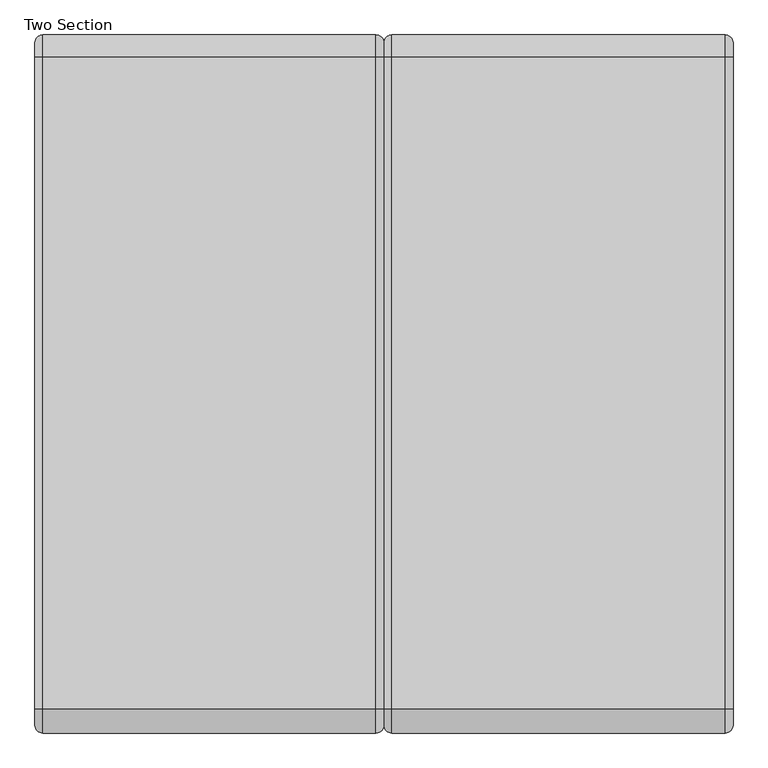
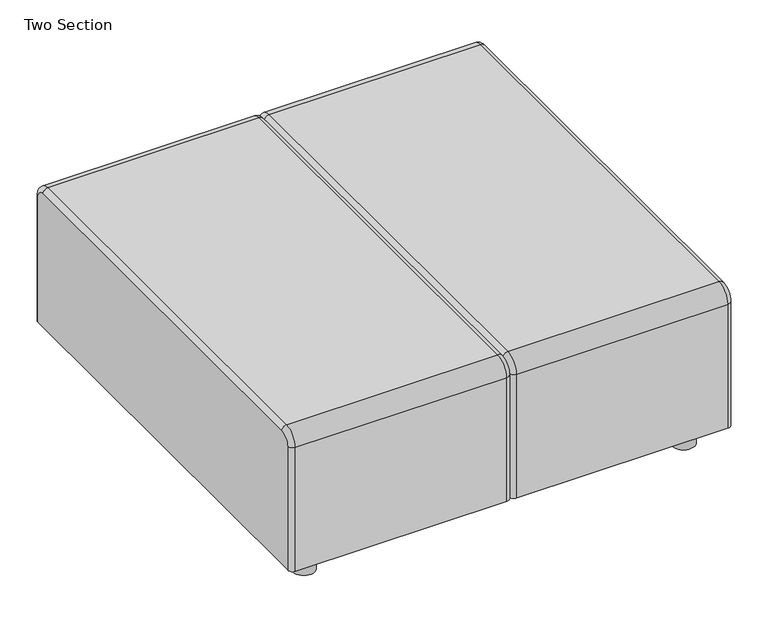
"""IFC4 building model written with IfcOpenShell, lengths in millimetres: furniture geometry, Coalesse_AM_Seating_Sofa_Await_ConnectorBench : Two Section."""

from ifc_helpers import new_model, si_unit, point, frame, frame_2d, origin, origin_with_axes, place, context, project, spatial, circle_curve, ellipse_curve, trimmed, segment, composite_curve, outline, extrude, source, transform, mapped, element, save
from ifc_brep_helpers import plane_surface, cylinder_surface, revolved_surface, advanced_brep


def two_section_09929254(model_context):
    return source(origin(), model_context, "Body", "SolidModel", [
        advanced_brep(
        [(-105.1179159, 393.3623127, 63.5), (-92.5345867, 405.9456418, 63.5), (440.8886284, 405.9456418, 63.5), (453.6820901, 393.1521801, 63.5), (453.6820901, -698.8608965, 63.5), (440.8886284, -711.6543582, 63.5), (-92.5345867, -711.6543582, 63.5), (-105.1179159, -699.071029, 63.5), (-105.1179159, -699.071029, 393.6999879), (-105.1179159, -673.5543582, 419.2166587), (-105.1179159, 370.1950719, 419.2166587), (-105.1179159, 393.3623127, 396.049418), (453.6820901, 393.1521801, 396.049418), (453.6820901, 370.1950719, 419.0065262), (453.6820901, -673.5543582, 419.0065262), (453.6820901, -698.8608965, 393.6999879), (440.8886284, -711.6543582, 393.6999879), (-92.5345867, -711.6543582, 393.6999879), (440.8886284, -673.5543582, 431.7999879), (-92.5345867, -673.5543582, 431.7999879), (440.8886284, 370.1950719, 431.7999879), (-92.5345867, 370.1950719, 431.7999879), (440.8886284, 405.9456418, 396.049418), (-92.5345867, 405.9456418, 396.049418)],
        [
            (0, 1, circle_curve(frame((-92.5345867, 393.3623127, 63.5), z_axis=(0.0, 0.0, -1.0), x_axis=(0.0, 1.0, 0.0)), 12.5833292)),
            (1, 2),
            (2, 3, circle_curve(frame((440.8886284, 393.1521801, 63.5), z_axis=(0.0, 0.0, -1.0), x_axis=(0.0, 1.0, 0.0)), 12.7934617)),
            (3, 4),
            (4, 5, circle_curve(frame((440.8886284, -698.8608965, 63.5), z_axis=(0.0, 0.0, -1.0), x_axis=(0.0, -1.0, 0.0)), 12.7934617)),
            (5, 6),
            (6, 7, circle_curve(frame((-92.5345867, -699.071029, 63.5), z_axis=(0.0, 0.0, -1.0), x_axis=(0.0, -1.0, 0.0)), 12.5833292)),
            (7, 0),
            (7, 8),
            (8, 9, circle_curve(frame((-105.1179159, -673.5543582, 393.6999879), z_axis=(-1.0, 0.0, 0.0), x_axis=(0.0, -1.0, 0.0)), 25.5166708)),
            (9, 10),
            (10, 11, circle_curve(frame((-105.1179159, 370.1950719, 396.049418), z_axis=(-1.0, 0.0, 0.0), x_axis=(0.0, 0.0, 1.0)), 23.1672407)),
            (11, 0),
            (3, 12),
            (12, 13, circle_curve(frame((453.6820901, 370.1950719, 396.049418), z_axis=(1.0, 0.0, 0.0), x_axis=(0.0, 0.0, 1.0)), 22.9571082)),
            (13, 14),
            (14, 15, circle_curve(frame((453.6820901, -673.5543582, 393.6999879), z_axis=(1.0, 0.0, 0.0), x_axis=(0.0, -1.0, 0.0)), 25.3065383)),
            (15, 4),
            (15, 16, circle_curve(frame((440.8886284, -698.8608965, 393.6999879), z_axis=(0.0, 0.0, -1.0), x_axis=(0.0, -1.0, 0.0)), 12.7934617)),
            (16, 5),
            (16, 17),
            (17, 6),
            (17, 8, circle_curve(frame((-92.5345867, -699.071029, 393.6999879), z_axis=(0.0, 0.0, -1.0), x_axis=(0.0, -1.0, 0.0)), 12.5833292)),
            (14, 18, circle_curve(frame((440.8886284, -673.5543582, 419.0065262), z_axis=(0.0, -1.0, 0.0), x_axis=(0.0, 0.0, 1.0)), 12.7934617)),
            (18, 16, circle_curve(frame((440.8886284, -673.5543582, 393.6999879), z_axis=(1.0, 0.0, 0.0), x_axis=(0.0, -1.0, 0.0)), 38.1)),
            (18, 19),
            (19, 17, circle_curve(frame((-92.5345867, -673.5543582, 393.6999879), z_axis=(1.0, 0.0, 0.0), x_axis=(0.0, -1.0, 0.0)), 38.1)),
            (19, 9, circle_curve(frame((-92.5345867, -673.5543582, 419.2166587), z_axis=(0.0, -1.0, 0.0), x_axis=(0.0, 0.0, 1.0)), 12.5833292)),
            (13, 20, circle_curve(frame((440.8886284, 370.1950719, 419.0065262), z_axis=(0.0, -1.0, 0.0), x_axis=(0.0, 0.0, 1.0)), 12.7934617)),
            (20, 18),
            (20, 21),
            (21, 19),
            (21, 10, circle_curve(frame((-92.5345867, 370.1950719, 419.2166587), z_axis=(0.0, -1.0, 0.0), x_axis=(0.0, 0.0, 1.0)), 12.5833292)),
            (12, 22, circle_curve(frame((440.8886284, 393.1521801, 396.049418), z_axis=(0.0, 0.0, 1.0), x_axis=(0.0, 1.0, 0.0)), 12.7934617)),
            (22, 20, circle_curve(frame((440.8886284, 370.1950719, 396.049418), z_axis=(1.0, 0.0, 0.0), x_axis=(0.0, 0.0, 1.0)), 35.7505699)),
            (22, 23),
            (23, 21, circle_curve(frame((-92.5345867, 370.1950719, 396.049418), z_axis=(1.0, 0.0, 0.0), x_axis=(0.0, 0.0, 1.0)), 35.7505699)),
            (23, 11, circle_curve(frame((-92.5345867, 393.3623127, 396.049418), z_axis=(0.0, 0.0, 1.0), x_axis=(0.0, 1.0, 0.0)), 12.5833292)),
            (2, 22),
            (1, 23),
        ],
        [
            plane_surface(frame((558.8000061, -686.2543582, 63.5), z_axis=(0.0, 0.0, -1.0), x_axis=(1.0, 0.0, 0.0))),
            plane_surface(frame((-105.1179159, -699.071029, 63.5), z_axis=(-1.0, 0.0, 0.0), x_axis=(0.0, 0.0, 1.0))),
            plane_surface(frame((453.6820901, -686.2543582, 63.5), z_axis=(1.0, 0.0, 0.0), x_axis=(0.0, 0.0, 1.0))),
            cylinder_surface(frame((440.8886284, -698.8608965, 63.5), z_axis=(0.0, 0.0, -1.0), x_axis=(0.0, -1.0, 0.0)), 12.7934617),
            plane_surface(frame((440.8886284, -711.6543582, 63.5), z_axis=(0.0, -1.0, 0.0), x_axis=(0.0, 0.0, 1.0))),
            cylinder_surface(frame((-92.5345867, -699.071029, 63.5), z_axis=(0.0, 0.0, -1.0), x_axis=(0.0, -1.0, 0.0)), 12.5833292),
            revolved_surface(trimmed(ellipse_curve(frame((440.8886284, -698.8608965, 393.6999879), z_axis=(0.0, 0.0, -1.0), x_axis=(0.0, -1.0, 0.0)), 12.7934617, 12.7934617), [point((453.6820901, -698.8608965, 393.6999879))], [point((440.8886284, -711.6543582, 393.6999879))], True, "CARTESIAN"), (558.8000061, -673.5543582, 393.6999879), (-1.0, 0.0, 0.0)),
            cylinder_surface(frame((558.8000061, -673.5543582, 393.6999879), z_axis=(-1.0, 0.0, 0.0), x_axis=(0.0, -1.0, 0.0)), 38.1),
            revolved_surface(trimmed(ellipse_curve(frame((-92.5345867, -699.071029, 393.6999879), z_axis=(0.0, 0.0, -1.0), x_axis=(0.0, -1.0, 0.0)), 12.5833292, 12.5833292), [point((-92.5345867, -711.6543582, 393.6999879))], [point((-105.1179159, -699.071029, 393.6999879))], True, "CARTESIAN"), (558.8000061, -673.5543582, 393.6999879), (-1.0, 0.0, 0.0)),
            cylinder_surface(frame((440.8886284, -673.5543582, 419.0065262), z_axis=(0.0, -1.0, 0.0), x_axis=(0.0, 0.0, 1.0)), 12.7934617),
            plane_surface(frame((440.8886284, -673.5543582, 431.7999879), z_axis=(0.0, 0.0, 1.0), x_axis=(0.0, 1.0, 0.0))),
            cylinder_surface(frame((-92.5345867, -673.5543582, 419.2166587), z_axis=(0.0, -1.0, 0.0), x_axis=(0.0, 0.0, 1.0)), 12.5833292),
            revolved_surface(trimmed(ellipse_curve(frame((440.8886284, 370.1950719, 419.0065262), z_axis=(0.0, -1.0, 0.0), x_axis=(0.0, 0.0, 1.0)), 12.7934617, 12.7934617), [point((453.6820901, 370.1950719, 419.0065262))], [point((440.8886284, 370.1950719, 431.7999879))], True, "CARTESIAN"), (558.8000061, 370.1950719, 396.049418), (-1.0, 0.0, 0.0)),
            cylinder_surface(frame((558.8000061, 370.1950719, 396.049418), z_axis=(-1.0, 0.0, 0.0), x_axis=(0.0, 0.0, 1.0)), 35.7505699),
            revolved_surface(trimmed(ellipse_curve(frame((-92.5345867, 370.1950719, 419.2166587), z_axis=(0.0, -1.0, 0.0), x_axis=(0.0, 0.0, 1.0)), 12.5833292, 12.5833292), [point((-92.5345867, 370.1950719, 431.7999879))], [point((-105.1179159, 370.1950719, 419.2166587))], True, "CARTESIAN"), (558.8000061, 370.1950719, 396.049418), (-1.0, 0.0, 0.0)),
            cylinder_surface(frame((440.8886284, 393.1521801, 396.049418), z_axis=(0.0, 0.0, 1.0), x_axis=(0.0, 1.0, 0.0)), 12.7934617),
            plane_surface(frame((440.8886284, 405.9456418, 396.049418), z_axis=(0.0, 1.0, 0.0), x_axis=(0.0, 0.0, -1.0))),
            cylinder_surface(frame((-92.5345867, 393.3623127, 396.049418), z_axis=(0.0, 0.0, 1.0), x_axis=(0.0, 1.0, 0.0)), 12.5833292),
        ],
        [
            (0, [[1, 2, 3, 4, 5, 6, 7, 8]]),
            (1, [[-8, 9, 10, 11, 12, 13]]),
            (2, [[-4, 14, 15, 16, 17, 18]]),
            (3, [[-5, -18, 19, 20]]),
            (4, [[-6, -20, 21, 22]]),
            (5, [[-7, -22, 23, -9]]),
            (6, [[-17, 24, 25, -19]]),
            (7, [[-21, -25, 26, 27]]),
            (8, [[-10, -23, -27, 28]]),
            (9, [[-16, 29, 30, -24]]),
            (10, [[-26, -30, 31, 32]]),
            (11, [[-11, -28, -32, 33]]),
            (12, [[-15, 34, 35, -29]]),
            (13, [[-31, -35, 36, 37]]),
            (14, [[-12, -33, -37, 38]]),
            (15, [[-14, -3, 39, -34]]),
            (16, [[-36, -39, -2, 40]]),
            (17, [[-13, -38, -40, -1]]),
        ],
    ),
        advanced_brep(
        [(-663.917922, 393.3623127, 63.5), (-651.3345928, 405.9456418, 63.5), (-117.9113776, 405.9456418, 63.5), (-105.1179159, 393.1521801, 63.5), (-105.1179159, -698.8608965, 63.5), (-117.9113776, -711.6543582, 63.5), (-651.3345928, -711.6543582, 63.5), (-663.917922, -699.071029, 63.5), (-663.917922, -699.071029, 393.6999879), (-663.917922, -673.5543582, 419.2166587), (-663.917922, 370.1950719, 419.2166587), (-663.917922, 393.3623127, 396.049418), (-105.1179159, 393.1521801, 396.049418), (-105.1179159, 370.1950719, 419.0065262), (-105.1179159, -673.5543582, 419.0065262), (-105.1179159, -698.8608965, 393.6999879), (-117.9113776, -711.6543582, 393.6999879), (-651.3345928, -711.6543582, 393.6999879), (-117.9113776, -673.5543582, 431.7999879), (-651.3345928, -673.5543582, 431.7999879), (-117.9113776, 370.1950719, 431.7999879), (-651.3345928, 370.1950719, 431.7999879), (-117.9113776, 405.9456418, 396.049418), (-651.3345928, 405.9456418, 396.049418)],
        [
            (0, 1, circle_curve(frame((-651.3345928, 393.3623127, 63.5), z_axis=(0.0, 0.0, -1.0), x_axis=(0.0, 1.0, 0.0)), 12.5833292)),
            (1, 2),
            (2, 3, circle_curve(frame((-117.9113776, 393.1521801, 63.5), z_axis=(0.0, 0.0, -1.0), x_axis=(0.0, 1.0, 0.0)), 12.7934617)),
            (3, 4),
            (4, 5, circle_curve(frame((-117.9113776, -698.8608965, 63.5), z_axis=(0.0, 0.0, -1.0), x_axis=(0.0, -1.0, 0.0)), 12.7934617)),
            (5, 6),
            (6, 7, circle_curve(frame((-651.3345928, -699.071029, 63.5), z_axis=(0.0, 0.0, -1.0), x_axis=(0.0, -1.0, 0.0)), 12.5833292)),
            (7, 0),
            (7, 8),
            (8, 9, circle_curve(frame((-663.917922, -673.5543582, 393.6999879), z_axis=(-1.0, 0.0, 0.0), x_axis=(0.0, -1.0, 0.0)), 25.5166708)),
            (9, 10),
            (10, 11, circle_curve(frame((-663.917922, 370.1950719, 396.049418), z_axis=(-1.0, 0.0, 0.0), x_axis=(0.0, 0.0, 1.0)), 23.1672407)),
            (11, 0),
            (3, 12),
            (12, 13, circle_curve(frame((-105.1179159, 370.1950719, 396.049418), z_axis=(1.0, 0.0, 0.0), x_axis=(0.0, 0.0, 1.0)), 22.9571082)),
            (13, 14),
            (14, 15, circle_curve(frame((-105.1179159, -673.5543582, 393.6999879), z_axis=(1.0, 0.0, 0.0), x_axis=(0.0, -1.0, 0.0)), 25.3065383)),
            (15, 4),
            (15, 16, circle_curve(frame((-117.9113776, -698.8608965, 393.6999879), z_axis=(0.0, 0.0, -1.0), x_axis=(0.0, -1.0, 0.0)), 12.7934617)),
            (16, 5),
            (16, 17),
            (17, 6),
            (17, 8, circle_curve(frame((-651.3345928, -699.071029, 393.6999879), z_axis=(0.0, 0.0, -1.0), x_axis=(0.0, -1.0, 0.0)), 12.5833292)),
            (14, 18, circle_curve(frame((-117.9113776, -673.5543582, 419.0065262), z_axis=(0.0, -1.0, 0.0), x_axis=(0.0, 0.0, 1.0)), 12.7934617)),
            (18, 16, circle_curve(frame((-117.9113776, -673.5543582, 393.6999879), z_axis=(1.0, 0.0, 0.0), x_axis=(0.0, -1.0, 0.0)), 38.1)),
            (18, 19),
            (19, 17, circle_curve(frame((-651.3345928, -673.5543582, 393.6999879), z_axis=(1.0, 0.0, 0.0), x_axis=(0.0, -1.0, 0.0)), 38.1)),
            (19, 9, circle_curve(frame((-651.3345928, -673.5543582, 419.2166587), z_axis=(0.0, -1.0, 0.0), x_axis=(0.0, 0.0, 1.0)), 12.5833292)),
            (13, 20, circle_curve(frame((-117.9113776, 370.1950719, 419.0065262), z_axis=(0.0, -1.0, 0.0), x_axis=(0.0, 0.0, 1.0)), 12.7934617)),
            (20, 18),
            (20, 21),
            (21, 19),
            (21, 10, circle_curve(frame((-651.3345928, 370.1950719, 419.2166587), z_axis=(0.0, -1.0, 0.0), x_axis=(0.0, 0.0, 1.0)), 12.5833292)),
            (12, 22, circle_curve(frame((-117.9113776, 393.1521801, 396.049418), z_axis=(0.0, 0.0, 1.0), x_axis=(0.0, 1.0, 0.0)), 12.7934617)),
            (22, 20, circle_curve(frame((-117.9113776, 370.1950719, 396.049418), z_axis=(1.0, 0.0, 0.0), x_axis=(0.0, 0.0, 1.0)), 35.7505699)),
            (22, 23),
            (23, 21, circle_curve(frame((-651.3345928, 370.1950719, 396.049418), z_axis=(1.0, 0.0, 0.0), x_axis=(0.0, 0.0, 1.0)), 35.7505699)),
            (23, 11, circle_curve(frame((-651.3345928, 393.3623127, 396.049418), z_axis=(0.0, 0.0, 1.0), x_axis=(0.0, 1.0, 0.0)), 12.5833292)),
            (2, 22),
            (1, 23),
        ],
        [
            plane_surface(frame((0.0, -686.2543582, 63.5), z_axis=(0.0, 0.0, -1.0), x_axis=(1.0, 0.0, 0.0))),
            plane_surface(frame((-663.917922, -699.071029, 63.5), z_axis=(-1.0, 0.0, 0.0), x_axis=(0.0, 0.0, 1.0))),
            plane_surface(frame((-105.1179159, -686.2543582, 63.5), z_axis=(1.0, 0.0, 0.0), x_axis=(0.0, 0.0, 1.0))),
            cylinder_surface(frame((-117.9113776, -698.8608965, 63.5), z_axis=(0.0, 0.0, -1.0), x_axis=(0.0, -1.0, 0.0)), 12.7934617),
            plane_surface(frame((-117.9113776, -711.6543582, 63.5), z_axis=(0.0, -1.0, 0.0), x_axis=(0.0, 0.0, 1.0))),
            cylinder_surface(frame((-651.3345928, -699.071029, 63.5), z_axis=(0.0, 0.0, -1.0), x_axis=(0.0, -1.0, 0.0)), 12.5833292),
            revolved_surface(trimmed(ellipse_curve(frame((-117.9113776, -698.8608965, 393.6999879), z_axis=(0.0, 0.0, -1.0), x_axis=(0.0, -1.0, 0.0)), 12.7934617, 12.7934617), [point((-105.1179159, -698.8608965, 393.6999879))], [point((-117.9113776, -711.6543582, 393.6999879))], True, "CARTESIAN"), (0.0, -673.5543582, 393.6999879), (-1.0, 0.0, 0.0)),
            cylinder_surface(frame((0.0, -673.5543582, 393.6999879), z_axis=(-1.0, 0.0, 0.0), x_axis=(0.0, -1.0, 0.0)), 38.1),
            revolved_surface(trimmed(ellipse_curve(frame((-651.3345928, -699.071029, 393.6999879), z_axis=(0.0, 0.0, -1.0), x_axis=(0.0, -1.0, 0.0)), 12.5833292, 12.5833292), [point((-651.3345928, -711.6543582, 393.6999879))], [point((-663.917922, -699.071029, 393.6999879))], True, "CARTESIAN"), (0.0, -673.5543582, 393.6999879), (-1.0, 0.0, 0.0)),
            cylinder_surface(frame((-117.9113776, -673.5543582, 419.0065262), z_axis=(0.0, -1.0, 0.0), x_axis=(0.0, 0.0, 1.0)), 12.7934617),
            plane_surface(frame((-117.9113776, -673.5543582, 431.7999879), z_axis=(0.0, 0.0, 1.0), x_axis=(0.0, 1.0, 0.0))),
            cylinder_surface(frame((-651.3345928, -673.5543582, 419.2166587), z_axis=(0.0, -1.0, 0.0), x_axis=(0.0, 0.0, 1.0)), 12.5833292),
            revolved_surface(trimmed(ellipse_curve(frame((-117.9113776, 370.1950719, 419.0065262), z_axis=(0.0, -1.0, 0.0), x_axis=(0.0, 0.0, 1.0)), 12.7934617, 12.7934617), [point((-105.1179159, 370.1950719, 419.0065262))], [point((-117.9113776, 370.1950719, 431.7999879))], True, "CARTESIAN"), (0.0, 370.1950719, 396.049418), (-1.0, 0.0, 0.0)),
            cylinder_surface(frame((0.0, 370.1950719, 396.049418), z_axis=(-1.0, 0.0, 0.0), x_axis=(0.0, 0.0, 1.0)), 35.7505699),
            revolved_surface(trimmed(ellipse_curve(frame((-651.3345928, 370.1950719, 419.2166587), z_axis=(0.0, -1.0, 0.0), x_axis=(0.0, 0.0, 1.0)), 12.5833292, 12.5833292), [point((-651.3345928, 370.1950719, 431.7999879))], [point((-663.917922, 370.1950719, 419.2166587))], True, "CARTESIAN"), (0.0, 370.1950719, 396.049418), (-1.0, 0.0, 0.0)),
            cylinder_surface(frame((-117.9113776, 393.1521801, 396.049418), z_axis=(0.0, 0.0, 1.0), x_axis=(0.0, 1.0, 0.0)), 12.7934617),
            plane_surface(frame((-117.9113776, 405.9456418, 396.049418), z_axis=(0.0, 1.0, 0.0), x_axis=(0.0, 0.0, -1.0))),
            cylinder_surface(frame((-651.3345928, 393.3623127, 396.049418), z_axis=(0.0, 0.0, 1.0), x_axis=(0.0, 1.0, 0.0)), 12.5833292),
        ],
        [
            (0, [[1, 2, 3, 4, 5, 6, 7, 8]]),
            (1, [[-8, 9, 10, 11, 12, 13]]),
            (2, [[-4, 14, 15, 16, 17, 18]]),
            (3, [[-5, -18, 19, 20]]),
            (4, [[-6, -20, 21, 22]]),
            (5, [[-7, -22, 23, -9]]),
            (6, [[-17, 24, 25, -19]]),
            (7, [[-21, -25, 26, 27]]),
            (8, [[-10, -23, -27, 28]]),
            (9, [[-16, 29, 30, -24]]),
            (10, [[-26, -30, 31, 32]]),
            (11, [[-11, -28, -32, 33]]),
            (12, [[-15, 34, 35, -29]]),
            (13, [[-31, -35, 36, 37]]),
            (14, [[-12, -33, -37, 38]]),
            (15, [[-14, -3, 39, -34]]),
            (16, [[-36, -39, -2, 40]]),
            (17, [[-13, -38, -40, -1]]),
        ],
    ),
        extrude(outline(composite_curve([segment(trimmed(circle_curve(frame_2d((-584.4783622, -631.9867521)), 27.94), [point((-612.4183622, -631.9867521))], [point((-556.5383622, -631.9867521))], False, "CARTESIAN"), True, "CONTINUOUS"), segment(trimmed(circle_curve(frame_2d((-584.4783622, -631.9867521)), 27.94), [point((-556.5383622, -631.9867521))], [point((-612.4183622, -631.9867521))], False, "CARTESIAN"), True, "CONTINUOUS")], self_intersect=False)), origin_with_axes(), (0.0, 0.0, 1.0), 63.5),
        extrude(outline(composite_curve([segment(trimmed(circle_curve(frame_2d((-584.4783622, 326.8632479)), 27.94), [point((-612.4183622, 326.8632479))], [point((-556.5383622, 326.8632479))], False, "CARTESIAN"), True, "CONTINUOUS"), segment(trimmed(circle_curve(frame_2d((-584.4783622, 326.8632479)), 27.94), [point((-556.5383622, 326.8632479))], [point((-612.4183622, 326.8632479))], False, "CARTESIAN"), True, "CONTINUOUS")], self_intersect=False)), origin_with_axes(), (0.0, 0.0, 1.0), 63.5),
        extrude(outline(composite_curve([segment(trimmed(circle_curve(frame_2d((374.3716378, -631.9867521)), 27.94), [point((346.4316378, -631.9867521))], [point((402.3116378, -631.9867521))], False, "CARTESIAN"), True, "CONTINUOUS"), segment(trimmed(circle_curve(frame_2d((374.3716378, -631.9867521)), 27.94), [point((402.3116378, -631.9867521))], [point((346.4316378, -631.9867521))], False, "CARTESIAN"), True, "CONTINUOUS")], self_intersect=False)), origin_with_axes(), (0.0, 0.0, 1.0), 63.5),
        extrude(outline(composite_curve([segment(trimmed(circle_curve(frame_2d((374.3716378, 326.8632479)), 27.94), [point((346.4316378, 326.8632479))], [point((402.3116378, 326.8632479))], False, "CARTESIAN"), True, "CONTINUOUS"), segment(trimmed(circle_curve(frame_2d((374.3716378, 326.8632479)), 27.94), [point((402.3116378, 326.8632479))], [point((346.4316378, 326.8632479))], False, "CARTESIAN"), True, "CONTINUOUS")], self_intersect=False)), origin_with_axes(), (0.0, 0.0, 1.0), 63.5),
    ])


if __name__ == "__main__":
    model = new_model("IFC4")
    model_context = context("Model", 3, world=origin())
    ifc_project = project(units=[si_unit("LENGTHUNIT", "METRE", prefix="MILLI")], contexts=[model_context])
    site = spatial("IfcSite", under=ifc_project)
    building = spatial("IfcBuilding", under=site)
    placement = place(None, origin())
    two_section_shape = two_section_09929254(model_context)
    element("IfcFurniture", 1, ObjectType="Coalesse_AM_Seating_Sofa_Await_ConnectorBench : Two Section", at=placement, inside=building, context=model_context, shape_type="MappedRepresentation", body=[
        mapped(two_section_shape, transform((0.0, 0.0, 0.0), x_axis=(1.0, 0.0, 0.0), y_axis=(0.0, 1.0, 0.0), z_axis=(0.0, 0.0, 1.0))),
    ])
    save(model, "model.ifc")
